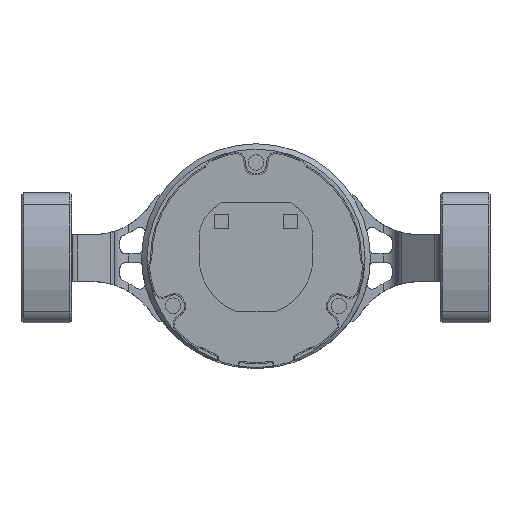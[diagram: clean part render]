
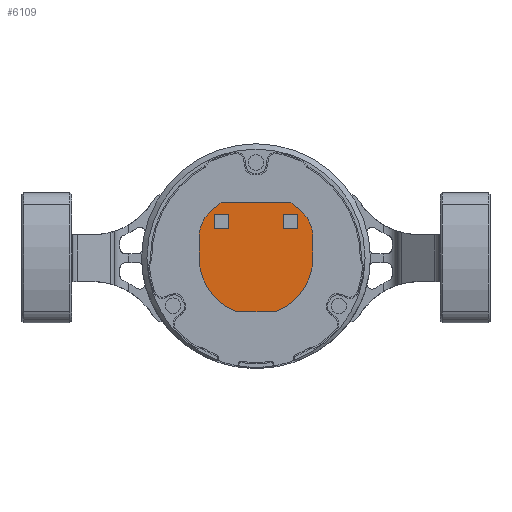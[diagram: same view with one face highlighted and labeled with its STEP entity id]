
A CAD part, top view. The second image highlights one B-rep face of the part: STEP entity #6109.
In plain terms, the highlighted planar face has unit normal (0, 0, 1).
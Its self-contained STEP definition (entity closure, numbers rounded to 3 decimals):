
#3610=B_SPLINE_CURVE_WITH_KNOTS('',3,(#32839,#32840,#32841,#32842),
 .UNSPECIFIED.,.F.,.F.,(4,4),(0.,1.),.UNSPECIFIED.);
#3611=B_SPLINE_CURVE_WITH_KNOTS('',3,(#32845,#32846,#32847,#32848),
 .UNSPECIFIED.,.F.,.F.,(4,4),(0.,1.),.UNSPECIFIED.);
#3612=B_SPLINE_CURVE_WITH_KNOTS('',3,(#32850,#32851,#32852,#32853),
 .UNSPECIFIED.,.F.,.F.,(4,4),(0.,1.),.UNSPECIFIED.);
#3613=B_SPLINE_CURVE_WITH_KNOTS('',3,(#32855,#32856,#32857,#32858),
 .UNSPECIFIED.,.F.,.F.,(4,4),(0.,1.),.UNSPECIFIED.);
#3614=B_SPLINE_CURVE_WITH_KNOTS('',3,(#32879,#32880,#32881,#32882),
 .UNSPECIFIED.,.F.,.F.,(4,4),(0.,1.),.UNSPECIFIED.);
#3615=B_SPLINE_CURVE_WITH_KNOTS('',3,(#32885,#32886,#32887,#32888),
 .UNSPECIFIED.,.F.,.F.,(4,4),(0.,1.),.UNSPECIFIED.);
#3616=B_SPLINE_CURVE_WITH_KNOTS('',3,(#32890,#32891,#32892,#32893),
 .UNSPECIFIED.,.F.,.F.,(4,4),(0.,1.),.UNSPECIFIED.);
#3617=B_SPLINE_CURVE_WITH_KNOTS('',3,(#32895,#32896,#32897,#32898),
 .UNSPECIFIED.,.F.,.F.,(4,4),(0.,1.),.UNSPECIFIED.);
#3888=FACE_BOUND('',#7872,.T.);
#3889=FACE_BOUND('',#7873,.T.);
#3890=FACE_BOUND('',#7874,.T.);
#4643=LINE('',#32864,#5394);
#4644=LINE('',#32870,#5395);
#4645=LINE('',#32874,#5396);
#4646=LINE('',#32878,#5397);
#5394=VECTOR('',#22617,1.);
#5395=VECTOR('',#22622,1.);
#5396=VECTOR('',#22625,1.);
#5397=VECTOR('',#22628,1.);
#6109=ADVANCED_FACE('',(#3888,#3889,#3890),#6356,.T.);
#6356=PLANE('',#19187);
#7872=EDGE_LOOP('',(#12759,#12760,#12761,#12762));
#7873=EDGE_LOOP('',(#12763,#12764,#12765,#12766,#12767,#12768,#12769,#12770,
#12771,#12772));
#7874=EDGE_LOOP('',(#12773,#12774,#12775,#12776));
#12759=ORIENTED_EDGE('',*,*,#17188,.T.);
#12760=ORIENTED_EDGE('',*,*,#17189,.T.);
#12761=ORIENTED_EDGE('',*,*,#17190,.T.);
#12762=ORIENTED_EDGE('',*,*,#17191,.T.);
#12763=ORIENTED_EDGE('',*,*,#17192,.T.);
#12764=ORIENTED_EDGE('',*,*,#17193,.T.);
#12765=ORIENTED_EDGE('',*,*,#17194,.T.);
#12766=ORIENTED_EDGE('',*,*,#17195,.T.);
#12767=ORIENTED_EDGE('',*,*,#17196,.T.);
#12768=ORIENTED_EDGE('',*,*,#17197,.T.);
#12769=ORIENTED_EDGE('',*,*,#17198,.T.);
#12770=ORIENTED_EDGE('',*,*,#17199,.T.);
#12771=ORIENTED_EDGE('',*,*,#17200,.T.);
#12772=ORIENTED_EDGE('',*,*,#17201,.T.);
#12773=ORIENTED_EDGE('',*,*,#17202,.T.);
#12774=ORIENTED_EDGE('',*,*,#17203,.T.);
#12775=ORIENTED_EDGE('',*,*,#17204,.T.);
#12776=ORIENTED_EDGE('',*,*,#17205,.T.);
#14729=VERTEX_POINT('',#32843);
#14730=VERTEX_POINT('',#32844);
#14731=VERTEX_POINT('',#32849);
#14732=VERTEX_POINT('',#32854);
#14733=VERTEX_POINT('',#32860);
#14734=VERTEX_POINT('',#32861);
#14735=VERTEX_POINT('',#32863);
#14736=VERTEX_POINT('',#32865);
#14737=VERTEX_POINT('',#32867);
#14738=VERTEX_POINT('',#32869);
#14739=VERTEX_POINT('',#32871);
#14740=VERTEX_POINT('',#32873);
#14741=VERTEX_POINT('',#32875);
#14742=VERTEX_POINT('',#32877);
#14743=VERTEX_POINT('',#32883);
#14744=VERTEX_POINT('',#32884);
#14745=VERTEX_POINT('',#32889);
#14746=VERTEX_POINT('',#32894);
#17188=EDGE_CURVE('',#14729,#14730,#3610,.T.);
#17189=EDGE_CURVE('',#14730,#14731,#3611,.T.);
#17190=EDGE_CURVE('',#14731,#14732,#3612,.T.);
#17191=EDGE_CURVE('',#14732,#14729,#3613,.T.);
#17192=EDGE_CURVE('',#14733,#14734,#17837,.T.);
#17193=EDGE_CURVE('',#14734,#14735,#17838,.T.);
#17194=EDGE_CURVE('',#14735,#14736,#4643,.T.);
#17195=EDGE_CURVE('',#14736,#14737,#17839,.T.);
#17196=EDGE_CURVE('',#14737,#14738,#17840,.T.);
#17197=EDGE_CURVE('',#14738,#14739,#4644,.T.);
#17198=EDGE_CURVE('',#14739,#14740,#17841,.T.);
#17199=EDGE_CURVE('',#14740,#14741,#4645,.T.);
#17200=EDGE_CURVE('',#14741,#14742,#17842,.T.);
#17201=EDGE_CURVE('',#14742,#14733,#4646,.T.);
#17202=EDGE_CURVE('',#14743,#14744,#3614,.T.);
#17203=EDGE_CURVE('',#14744,#14745,#3615,.T.);
#17204=EDGE_CURVE('',#14745,#14746,#3616,.T.);
#17205=EDGE_CURVE('',#14746,#14743,#3617,.T.);
#17837=CIRCLE('',#19181,9.45);
#17838=CIRCLE('',#19182,18.45);
#17839=CIRCLE('',#19183,18.45);
#17840=CIRCLE('',#19184,9.45);
#17841=CIRCLE('',#19185,16.05);
#17842=CIRCLE('',#19186,16.05);
#19181=AXIS2_PLACEMENT_3D('',#32859,#22613,#22614);
#19182=AXIS2_PLACEMENT_3D('',#32862,#22615,#22616);
#19183=AXIS2_PLACEMENT_3D('',#32866,#22618,#22619);
#19184=AXIS2_PLACEMENT_3D('',#32868,#22620,#22621);
#19185=AXIS2_PLACEMENT_3D('',#32872,#22623,#22624);
#19186=AXIS2_PLACEMENT_3D('',#32876,#22626,#22627);
#19187=AXIS2_PLACEMENT_3D('',#32899,#22629,#22630);
#22613=DIRECTION('',(0.,0.,1.));
#22614=DIRECTION('',(0.931,0.365,0.));
#22615=DIRECTION('',(0.,0.,1.));
#22616=DIRECTION('',(0.639,0.769,0.));
#22617=DIRECTION('',(-1.,0.,0.));
#22618=DIRECTION('',(0.,0.,1.));
#22619=DIRECTION('',(-0.639,0.769,0.));
#22620=DIRECTION('',(0.,0.,1.));
#22621=DIRECTION('',(-0.931,0.365,0.));
#22622=DIRECTION('',(0.,-1.,0.));
#22623=DIRECTION('',(0.,0.,1.));
#22624=DIRECTION('',(-0.818,-0.575,0.));
#22625=DIRECTION('',(1.,0.,0.));
#22626=DIRECTION('',(0.,0.,1.));
#22627=DIRECTION('',(0.818,-0.575,0.));
#22628=DIRECTION('',(0.,1.,0.));
#22629=DIRECTION('',(0.,0.,1.));
#22630=DIRECTION('',(-1.,0.,0.));
#32839=CARTESIAN_POINT('',(-11.798,12.299,-0.84));
#32840=CARTESIAN_POINT('',(-10.465,12.299,-0.84));
#32841=CARTESIAN_POINT('',(-9.132,12.299,-0.84));
#32842=CARTESIAN_POINT('',(-7.798,12.299,-0.84));
#32843=CARTESIAN_POINT('',(-11.798,12.299,-0.845));
#32844=CARTESIAN_POINT('',(-7.798,12.299,-0.845));
#32845=CARTESIAN_POINT('',(-7.798,12.299,-0.84));
#32846=CARTESIAN_POINT('',(-7.798,10.966,-0.84));
#32847=CARTESIAN_POINT('',(-7.798,9.633,-0.84));
#32848=CARTESIAN_POINT('',(-7.798,8.299,-0.84));
#32849=CARTESIAN_POINT('',(-7.798,8.299,-0.845));
#32850=CARTESIAN_POINT('',(-7.798,8.299,-0.84));
#32851=CARTESIAN_POINT('',(-9.132,8.299,-0.84));
#32852=CARTESIAN_POINT('',(-10.465,8.299,-0.84));
#32853=CARTESIAN_POINT('',(-11.798,8.299,-0.84));
#32854=CARTESIAN_POINT('',(-11.798,8.299,-0.845));
#32855=CARTESIAN_POINT('',(-11.798,8.299,-0.84));
#32856=CARTESIAN_POINT('',(-11.798,9.633,-0.84));
#32857=CARTESIAN_POINT('',(-11.798,10.966,-0.84));
#32858=CARTESIAN_POINT('',(-11.798,12.299,-0.84));
#32859=CARTESIAN_POINT('',(6.6,6.119,-0.84));
#32860=CARTESIAN_POINT('',(16.05,6.119,-0.84));
#32861=CARTESIAN_POINT('',(13.53,12.543,-0.84));
#32862=CARTESIAN_POINT('',(0.,0.,-0.84));
#32863=CARTESIAN_POINT('',(9.851,15.6,-0.84));
#32864=CARTESIAN_POINT('',(9.851,15.6,-0.84));
#32865=CARTESIAN_POINT('',(-9.851,15.6,-0.84));
#32866=CARTESIAN_POINT('',(0.,0.,-0.84));
#32867=CARTESIAN_POINT('',(-13.53,12.543,-0.84));
#32868=CARTESIAN_POINT('',(-6.6,6.119,-0.84));
#32869=CARTESIAN_POINT('',(-16.05,6.119,-0.84));
#32870=CARTESIAN_POINT('',(-16.05,6.119,-0.84));
#32871=CARTESIAN_POINT('',(-16.05,0.,-0.84));
#32872=CARTESIAN_POINT('',(0.,0.,-0.84));
#32873=CARTESIAN_POINT('',(-5.44,-15.1,-0.84));
#32874=CARTESIAN_POINT('',(-5.44,-15.1,-0.84));
#32875=CARTESIAN_POINT('',(5.44,-15.1,-0.84));
#32876=CARTESIAN_POINT('',(0.,0.,-0.84));
#32877=CARTESIAN_POINT('',(16.05,0.,-0.84));
#32878=CARTESIAN_POINT('',(16.05,0.,-0.84));
#32879=CARTESIAN_POINT('',(11.802,8.299,-0.84));
#32880=CARTESIAN_POINT('',(10.468,8.299,-0.84));
#32881=CARTESIAN_POINT('',(9.135,8.299,-0.84));
#32882=CARTESIAN_POINT('',(7.802,8.299,-0.84));
#32883=CARTESIAN_POINT('',(11.802,8.299,-0.845));
#32884=CARTESIAN_POINT('',(7.802,8.299,-0.845));
#32885=CARTESIAN_POINT('',(7.802,8.299,-0.84));
#32886=CARTESIAN_POINT('',(7.802,9.633,-0.84));
#32887=CARTESIAN_POINT('',(7.802,10.966,-0.84));
#32888=CARTESIAN_POINT('',(7.802,12.299,-0.84));
#32889=CARTESIAN_POINT('',(7.802,12.299,-0.845));
#32890=CARTESIAN_POINT('',(7.802,12.299,-0.84));
#32891=CARTESIAN_POINT('',(9.135,12.299,-0.84));
#32892=CARTESIAN_POINT('',(10.468,12.299,-0.84));
#32893=CARTESIAN_POINT('',(11.802,12.299,-0.84));
#32894=CARTESIAN_POINT('',(11.802,12.299,-0.845));
#32895=CARTESIAN_POINT('',(11.802,12.299,-0.84));
#32896=CARTESIAN_POINT('',(11.802,10.966,-0.84));
#32897=CARTESIAN_POINT('',(11.802,9.633,-0.84));
#32898=CARTESIAN_POINT('',(11.802,8.299,-0.84));
#32899=CARTESIAN_POINT('',(6.6,6.119,-0.84));
